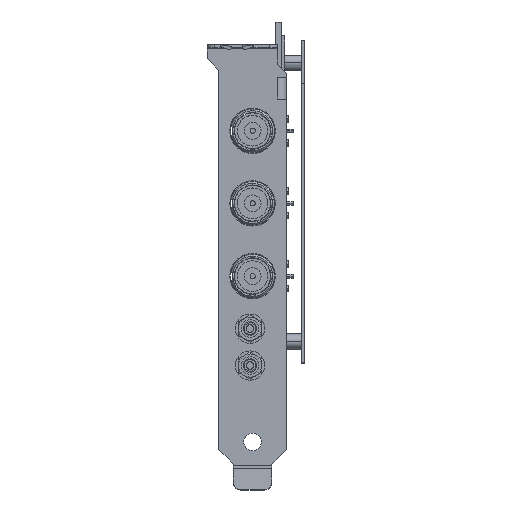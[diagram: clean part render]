
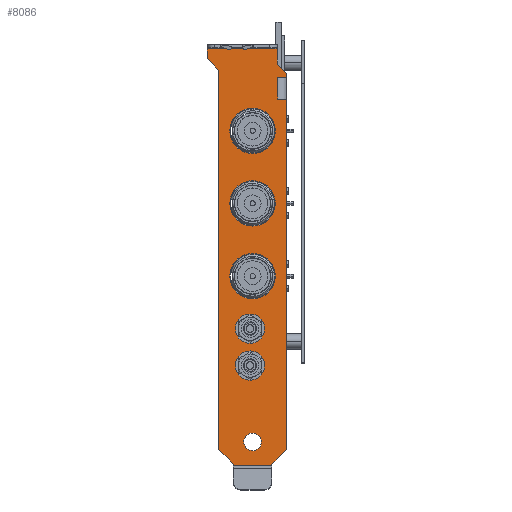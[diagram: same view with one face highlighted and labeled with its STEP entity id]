
A CAD part, top view. The second image highlights one B-rep face of the part: STEP entity #8086.
In plain terms, the highlighted planar face has unit normal (0, 0, 1).
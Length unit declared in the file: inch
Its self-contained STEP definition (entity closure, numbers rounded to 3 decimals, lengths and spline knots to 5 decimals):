
#144=DIRECTION('',(0.,-1.,0.));
#145=VECTOR('',#144,0.234);
#146=CARTESIAN_POINT('',(0.62876,-0.317,0.035));
#147=LINE('',#146,#145);
#177=DIRECTION('',(1.,0.,0.));
#178=VECTOR('',#177,0.09324);
#179=CARTESIAN_POINT('',(0.62876,-0.317,0.035));
#180=LINE('',#179,#178);
#181=DIRECTION('',(1.,0.,0.));
#182=VECTOR('',#181,0.09324);
#183=CARTESIAN_POINT('',(0.62876,-0.551,0.035));
#184=LINE('',#183,#182);
#185=DIRECTION('',(0.,1.,0.));
#186=VECTOR('',#185,3.744);
#187=CARTESIAN_POINT('',(0.722,-4.295,0.035));
#188=LINE('',#187,#186);
#189=DIRECTION('',(-0.707,-0.707,0.));
#190=VECTOR('',#189,0.2192);
#191=CARTESIAN_POINT('',(0.722,-4.295,0.035));
#192=LINE('',#191,#190);
#193=DIRECTION('',(0.,1.,0.));
#194=VECTOR('',#193,0.01785);
#195=CARTESIAN_POINT('',(0.567,-4.46785,0.035));
#196=LINE('',#195,#194);
#197=DIRECTION('',(1.,0.,0.));
#198=VECTOR('',#197,0.412);
#199=CARTESIAN_POINT('',(0.155,-4.46785,0.035));
#200=LINE('',#199,#198);
#201=DIRECTION('',(0.,1.,0.));
#202=VECTOR('',#201,0.01785);
#203=CARTESIAN_POINT('',(0.155,-4.46785,0.035));
#204=LINE('',#203,#202);
#205=DIRECTION('',(-0.707,0.707,0.));
#206=VECTOR('',#205,0.2192);
#207=CARTESIAN_POINT('',(0.155,-4.45,0.035));
#208=LINE('',#207,#206);
#209=DIRECTION('',(0.,-1.,0.));
#210=VECTOR('',#209,4.052);
#211=CARTESIAN_POINT('',(0.,-0.243,0.035));
#212=LINE('',#211,#210);
#213=DIRECTION('',(0.707,-0.707,0.));
#214=VECTOR('',#213,0.17678);
#215=CARTESIAN_POINT('',(-0.125,-0.118,0.035));
#216=LINE('',#215,#214);
#217=DIRECTION('',(0.707,-0.707,0.));
#218=VECTOR('',#217,0.14142);
#219=CARTESIAN_POINT('',(0.622,-0.177,0.035));
#220=LINE('',#219,#218);
#221=DIRECTION('',(0.,1.,0.));
#222=VECTOR('',#221,0.04);
#223=CARTESIAN_POINT('',(0.722,-0.317,0.035));
#224=LINE('',#223,#222);
#225=CARTESIAN_POINT('',(0.361,-4.213,0.035));
#226=DIRECTION('',(0.,0.,1.));
#227=DIRECTION('',(1.,0.,0.));
#228=AXIS2_PLACEMENT_3D('',#225,#226,#227);
#230=CARTESIAN_POINT('',(0.361,-4.213,0.035));
#231=DIRECTION('',(0.,0.,1.));
#232=DIRECTION('',(-1.,0.,0.));
#233=AXIS2_PLACEMENT_3D('',#230,#231,#232);
#235=CARTESIAN_POINT('',(0.361,-0.89,0.035));
#236=DIRECTION('',(0.,0.,1.));
#237=DIRECTION('',(1.,0.,0.));
#238=AXIS2_PLACEMENT_3D('',#235,#236,#237);
#240=CARTESIAN_POINT('',(0.361,-0.89,0.035));
#241=DIRECTION('',(0.,0.,1.));
#242=DIRECTION('',(-1.,0.,0.));
#243=AXIS2_PLACEMENT_3D('',#240,#241,#242);
#245=CARTESIAN_POINT('',(0.361,-1.665,0.035));
#246=DIRECTION('',(0.,0.,1.));
#247=DIRECTION('',(1.,0.,0.));
#248=AXIS2_PLACEMENT_3D('',#245,#246,#247);
#250=CARTESIAN_POINT('',(0.361,-1.665,0.035));
#251=DIRECTION('',(0.,0.,1.));
#252=DIRECTION('',(-1.,0.,0.));
#253=AXIS2_PLACEMENT_3D('',#250,#251,#252);
#255=CARTESIAN_POINT('',(0.361,-2.443,0.035));
#256=DIRECTION('',(0.,0.,1.));
#257=DIRECTION('',(1.,0.,0.));
#258=AXIS2_PLACEMENT_3D('',#255,#256,#257);
#260=CARTESIAN_POINT('',(0.361,-2.443,0.035));
#261=DIRECTION('',(0.,0.,1.));
#262=DIRECTION('',(-1.,0.,0.));
#263=AXIS2_PLACEMENT_3D('',#260,#261,#262);
#265=CARTESIAN_POINT('',(0.334,-3.397,0.035));
#266=DIRECTION('',(0.,0.,-1.));
#267=DIRECTION('',(-1.,0.,0.));
#268=AXIS2_PLACEMENT_3D('',#265,#266,#267);
#270=CARTESIAN_POINT('',(0.334,-3.397,0.035));
#271=DIRECTION('',(0.,0.,-1.));
#272=DIRECTION('',(1.,0.,0.));
#273=AXIS2_PLACEMENT_3D('',#270,#271,#272);
#275=CARTESIAN_POINT('',(0.334,-3.003,0.035));
#276=DIRECTION('',(0.,0.,1.));
#277=DIRECTION('',(1.,0.,0.));
#278=AXIS2_PLACEMENT_3D('',#275,#276,#277);
#280=CARTESIAN_POINT('',(0.334,-3.003,0.035));
#281=DIRECTION('',(0.,0.,1.));
#282=DIRECTION('',(-1.,0.,0.));
#283=AXIS2_PLACEMENT_3D('',#280,#281,#282);
#467=DIRECTION('',(0.,1.,0.));
#468=VECTOR('',#467,0.103);
#469=CARTESIAN_POINT('',(-0.125,-0.118,0.035));
#470=LINE('',#469,#468);
#5208=DIRECTION('',(0.,-1.,0.));
#5209=VECTOR('',#5208,0.162);
#5210=CARTESIAN_POINT('',(0.622,-0.015,0.035));
#5211=LINE('',#5210,#5209);
#5225=DIRECTION('',(-1.,0.,0.));
#5226=VECTOR('',#5225,0.747);
#5227=CARTESIAN_POINT('',(0.622,-0.015,0.035));
#5228=LINE('',#5227,#5226);
#6388=CARTESIAN_POINT('',(0.622,-0.015,0.035));
#6389=CARTESIAN_POINT('',(0.622,-0.177,0.035));
#6390=VERTEX_POINT('',#6388);
#6391=VERTEX_POINT('',#6389);
#6392=CARTESIAN_POINT('',(-0.125,-0.015,0.035));
#6393=VERTEX_POINT('',#6392);
#6394=CARTESIAN_POINT('',(-0.125,-0.118,0.035));
#6395=VERTEX_POINT('',#6394);
#6396=CARTESIAN_POINT('',(0.,-0.243,0.035));
#6397=VERTEX_POINT('',#6396);
#6398=CARTESIAN_POINT('',(0.,-4.295,0.035));
#6399=VERTEX_POINT('',#6398);
#6400=CARTESIAN_POINT('',(0.155,-4.45,0.035));
#6401=VERTEX_POINT('',#6400);
#6410=CARTESIAN_POINT('',(0.722,-4.295,0.035));
#6411=CARTESIAN_POINT('',(0.567,-4.45,0.035));
#6412=VERTEX_POINT('',#6410);
#6413=VERTEX_POINT('',#6411);
#6414=CARTESIAN_POINT('',(0.722,-0.277,0.035));
#6415=VERTEX_POINT('',#6414);
#6416=CARTESIAN_POINT('',(0.4545,-4.213,0.035));
#6417=CARTESIAN_POINT('',(0.2675,-4.213,0.035));
#6418=VERTEX_POINT('',#6416);
#6419=VERTEX_POINT('',#6417);
#6456=CARTESIAN_POINT('',(0.722,-0.551,0.035));
#6457=VERTEX_POINT('',#6456);
#6460=CARTESIAN_POINT('',(0.722,-0.317,0.035));
#6461=VERTEX_POINT('',#6460);
#6470=CARTESIAN_POINT('',(0.62876,-0.317,0.035));
#6471=CARTESIAN_POINT('',(0.62876,-0.551,0.035));
#6472=VERTEX_POINT('',#6470);
#6473=VERTEX_POINT('',#6471);
#6538=CARTESIAN_POINT('',(0.155,-4.46785,0.035));
#6539=VERTEX_POINT('',#6538);
#6540=CARTESIAN_POINT('',(0.567,-4.46785,0.035));
#6541=VERTEX_POINT('',#6540);
#6582=CARTESIAN_POINT('',(0.6035,-0.89,0.035));
#6583=CARTESIAN_POINT('',(0.1185,-0.89,0.035));
#6584=VERTEX_POINT('',#6582);
#6585=VERTEX_POINT('',#6583);
#6586=CARTESIAN_POINT('',(0.6035,-1.665,0.035));
#6587=CARTESIAN_POINT('',(0.1185,-1.665,0.035));
#6588=VERTEX_POINT('',#6586);
#6589=VERTEX_POINT('',#6587);
#6590=CARTESIAN_POINT('',(0.6035,-2.443,0.035));
#6591=CARTESIAN_POINT('',(0.1185,-2.443,0.035));
#6592=VERTEX_POINT('',#6590);
#6593=VERTEX_POINT('',#6591);
#7331=CARTESIAN_POINT('',(0.178,-3.397,0.035));
#7332=CARTESIAN_POINT('',(0.49,-3.397,0.035));
#7333=VERTEX_POINT('',#7331);
#7334=VERTEX_POINT('',#7332);
#7339=CARTESIAN_POINT('',(0.49,-3.003,0.035));
#7340=CARTESIAN_POINT('',(0.178,-3.003,0.035));
#7341=VERTEX_POINT('',#7339);
#7342=VERTEX_POINT('',#7340);
#8013=CARTESIAN_POINT('',(0.,0.,0.035));
#8014=DIRECTION('',(0.,0.,1.));
#8015=DIRECTION('',(1.,0.,0.));
#8016=AXIS2_PLACEMENT_3D('',#8013,#8014,#8015);
#8017=PLANE('',#8016);
#8018=ORIENTED_EDGE('',*,*,#8005,.F.);
#8019=ORIENTED_EDGE('',*,*,#7958,.T.);
#8021=ORIENTED_EDGE('',*,*,#8020,.T.);
#8023=ORIENTED_EDGE('',*,*,#8022,.F.);
#8025=ORIENTED_EDGE('',*,*,#8024,.T.);
#8027=ORIENTED_EDGE('',*,*,#8026,.F.);
#8029=ORIENTED_EDGE('',*,*,#8028,.F.);
#8031=ORIENTED_EDGE('',*,*,#8030,.T.);
#8033=ORIENTED_EDGE('',*,*,#8032,.T.);
#8035=ORIENTED_EDGE('',*,*,#8034,.F.);
#8037=ORIENTED_EDGE('',*,*,#8036,.F.);
#8039=ORIENTED_EDGE('',*,*,#8038,.T.);
#8041=ORIENTED_EDGE('',*,*,#8040,.F.);
#8043=ORIENTED_EDGE('',*,*,#8042,.T.);
#8045=ORIENTED_EDGE('',*,*,#8044,.T.);
#8047=ORIENTED_EDGE('',*,*,#8046,.F.);
#8048=EDGE_LOOP('',(#8018,#8019,#8021,#8023,#8025,#8027,#8029,#8031,#8033,#8035,
#8037,#8039,#8041,#8043,#8045,#8047));
#8049=FACE_OUTER_BOUND('',#8048,.F.);
#8051=ORIENTED_EDGE('',*,*,#8050,.T.);
#8053=ORIENTED_EDGE('',*,*,#8052,.T.);
#8054=EDGE_LOOP('',(#8051,#8053));
#8055=FACE_BOUND('',#8054,.F.);
#8057=ORIENTED_EDGE('',*,*,#8056,.T.);
#8059=ORIENTED_EDGE('',*,*,#8058,.T.);
#8060=EDGE_LOOP('',(#8057,#8059));
#8061=FACE_BOUND('',#8060,.F.);
#8063=ORIENTED_EDGE('',*,*,#8062,.T.);
#8065=ORIENTED_EDGE('',*,*,#8064,.T.);
#8066=EDGE_LOOP('',(#8063,#8065));
#8067=FACE_BOUND('',#8066,.F.);
#8069=ORIENTED_EDGE('',*,*,#8068,.T.);
#8071=ORIENTED_EDGE('',*,*,#8070,.T.);
#8072=EDGE_LOOP('',(#8069,#8071));
#8073=FACE_BOUND('',#8072,.F.);
#8075=ORIENTED_EDGE('',*,*,#8074,.F.);
#8077=ORIENTED_EDGE('',*,*,#8076,.F.);
#8078=EDGE_LOOP('',(#8075,#8077));
#8079=FACE_BOUND('',#8078,.F.);
#8081=ORIENTED_EDGE('',*,*,#8080,.T.);
#8083=ORIENTED_EDGE('',*,*,#8082,.T.);
#8084=EDGE_LOOP('',(#8081,#8083));
#8085=FACE_BOUND('',#8084,.F.);
#8086=ADVANCED_FACE('',(#8049,#8055,#8061,#8067,#8073,#8079,#8085),#8017,.T.);
#229=CIRCLE('',#228,0.0935);
#234=CIRCLE('',#233,0.0935);
#239=CIRCLE('',#238,0.2425);
#244=CIRCLE('',#243,0.2425);
#249=CIRCLE('',#248,0.2425);
#254=CIRCLE('',#253,0.2425);
#259=CIRCLE('',#258,0.2425);
#264=CIRCLE('',#263,0.2425);
#269=CIRCLE('',#268,0.156);
#274=CIRCLE('',#273,0.156);
#279=CIRCLE('',#278,0.156);
#284=CIRCLE('',#283,0.156);
#7958=EDGE_CURVE('',#6472,#6473,#147,.T.);
#8005=EDGE_CURVE('',#6472,#6461,#180,.T.);
#8020=EDGE_CURVE('',#6473,#6457,#184,.T.);
#8022=EDGE_CURVE('',#6412,#6457,#188,.T.);
#8024=EDGE_CURVE('',#6412,#6413,#192,.T.);
#8026=EDGE_CURVE('',#6541,#6413,#196,.T.);
#8028=EDGE_CURVE('',#6539,#6541,#200,.T.);
#8030=EDGE_CURVE('',#6539,#6401,#204,.T.);
#8032=EDGE_CURVE('',#6401,#6399,#208,.T.);
#8034=EDGE_CURVE('',#6397,#6399,#212,.T.);
#8036=EDGE_CURVE('',#6395,#6397,#216,.T.);
#8038=EDGE_CURVE('',#6395,#6393,#470,.T.);
#8040=EDGE_CURVE('',#6390,#6393,#5228,.T.);
#8042=EDGE_CURVE('',#6390,#6391,#5211,.T.);
#8044=EDGE_CURVE('',#6391,#6415,#220,.T.);
#8046=EDGE_CURVE('',#6461,#6415,#224,.T.);
#8050=EDGE_CURVE('',#6418,#6419,#229,.T.);
#8052=EDGE_CURVE('',#6419,#6418,#234,.T.);
#8056=EDGE_CURVE('',#6584,#6585,#239,.T.);
#8058=EDGE_CURVE('',#6585,#6584,#244,.T.);
#8062=EDGE_CURVE('',#6588,#6589,#249,.T.);
#8064=EDGE_CURVE('',#6589,#6588,#254,.T.);
#8068=EDGE_CURVE('',#6592,#6593,#259,.T.);
#8070=EDGE_CURVE('',#6593,#6592,#264,.T.);
#8074=EDGE_CURVE('',#7333,#7334,#269,.T.);
#8076=EDGE_CURVE('',#7334,#7333,#274,.T.);
#8080=EDGE_CURVE('',#7341,#7342,#279,.T.);
#8082=EDGE_CURVE('',#7342,#7341,#284,.T.);
